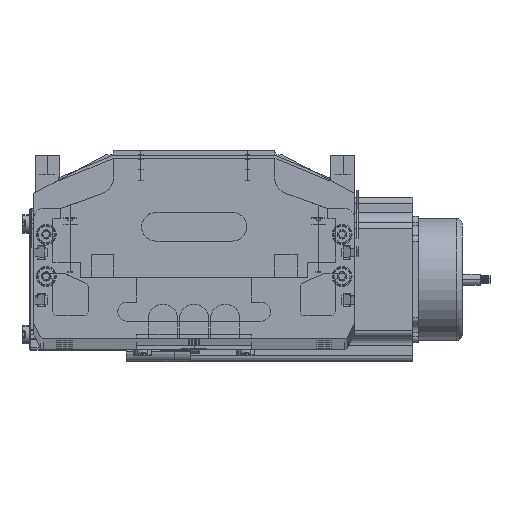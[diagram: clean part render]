
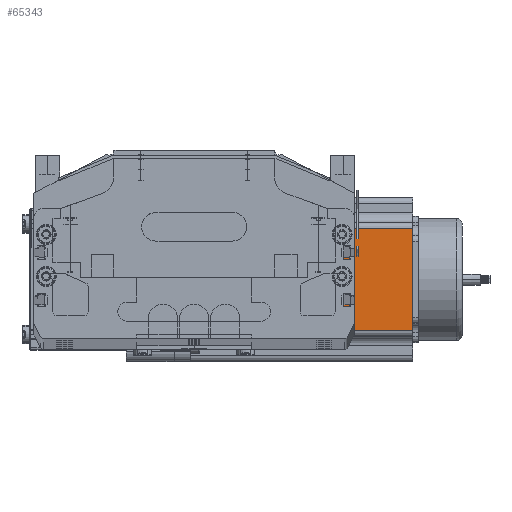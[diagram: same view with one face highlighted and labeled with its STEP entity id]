
A CAD part, top view. The second image highlights one B-rep face of the part: STEP entity #65343.
In plain terms, the highlighted planar face has unit normal (0, 0, 1) as drawn and (0, -1, 0) by its records, which use the part's own axes.
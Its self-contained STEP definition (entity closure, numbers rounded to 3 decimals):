
#65173 = ORIENTED_EDGE ( 'NONE', *, *, #65344, .T. ) ;
#65271 = EDGE_LOOP ( 'NONE', ( #65173, #65994, #65997, #66309 ) ) ;
#65288 = VERTEX_POINT ( 'NONE', #68097 ) ;
#65343 = ADVANCED_FACE ( 'NONE', ( #68170 ), #68144, .F. ) ;
#65344 = EDGE_CURVE ( 'NONE', #65288, #66001, #68147, .T. ) ;
#65992 = VERTEX_POINT ( 'NONE', #68453 ) ;
#65994 = ORIENTED_EDGE ( 'NONE', *, *, #65996, .T. ) ;
#65996 = EDGE_CURVE ( 'NONE', #66001, #65992, #68512, .T. ) ;
#65997 = ORIENTED_EDGE ( 'NONE', *, *, #66331, .F. ) ;
#66001 = VERTEX_POINT ( 'NONE', #68513 ) ;
#66216 = EDGE_CURVE ( 'NONE', #66334, #65288, #68722, .T. ) ;
#66309 = ORIENTED_EDGE ( 'NONE', *, *, #66216, .T. ) ;
#66331 = EDGE_CURVE ( 'NONE', #66334, #65992, #68867, .T. ) ;
#66334 = VERTEX_POINT ( 'NONE', #68815 ) ;
#68097 = CARTESIAN_POINT ( 'NONE',  ( 16.16, 0., 0. ) ) ;
#68144 = PLANE ( 'NONE',  #68154 ) ;
#68145 = DIRECTION ( 'NONE',  ( 1., 0., 0. ) ) ;
#68146 = CARTESIAN_POINT ( 'NONE',  ( 0., 0., 0. ) ) ;
#68147 = LINE ( 'NONE', #68146, #68202 ) ;
#68154 = AXIS2_PLACEMENT_3D ( 'NONE', #68171, #68206, #68205 ) ;
#68170 = FACE_OUTER_BOUND ( 'NONE', #65271, .T. ) ;
#68171 = CARTESIAN_POINT ( 'NONE',  ( 0., 0., 116.5 ) ) ;
#68202 = VECTOR ( 'NONE', #68145, 1000. ) ;
#68205 = DIRECTION ( 'NONE',  ( 0., 0., 1. ) ) ;
#68206 = DIRECTION ( 'NONE',  ( 0., 1., 0. ) ) ;
#68453 = CARTESIAN_POINT ( 'NONE',  ( 69.74, 0., 116.5 ) ) ;
#68509 = DIRECTION ( 'NONE',  ( 0., 0., 1. ) ) ;
#68510 = VECTOR ( 'NONE', #68509, 1000. ) ;
#68511 = CARTESIAN_POINT ( 'NONE',  ( 69.74, 0., 116.5 ) ) ;
#68512 = LINE ( 'NONE', #68511, #68510 ) ;
#68513 = CARTESIAN_POINT ( 'NONE',  ( 69.74, 0., 0. ) ) ;
#68711 = DIRECTION ( 'NONE',  ( 0., 0., -1. ) ) ;
#68712 = VECTOR ( 'NONE', #68711, 1000. ) ;
#68713 = CARTESIAN_POINT ( 'NONE',  ( 16.16, 0., 116.5 ) ) ;
#68722 = LINE ( 'NONE', #68713, #68712 ) ;
#68815 = CARTESIAN_POINT ( 'NONE',  ( 16.16, 0., 116.5 ) ) ;
#68849 = DIRECTION ( 'NONE',  ( 1., 0., 0. ) ) ;
#68865 = VECTOR ( 'NONE', #68849, 1000. ) ;
#68866 = CARTESIAN_POINT ( 'NONE',  ( 0., 0., 116.5 ) ) ;
#68867 = LINE ( 'NONE', #68866, #68865 ) ;
